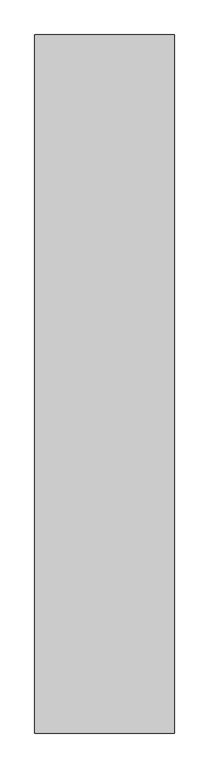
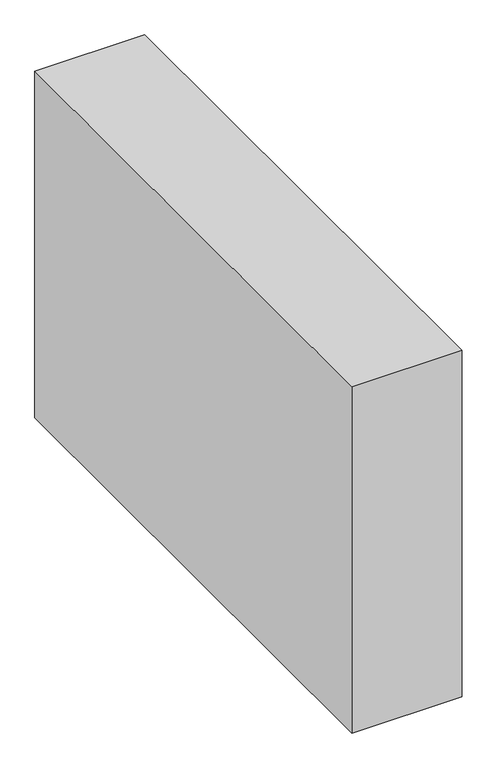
"""IFC4 building model written with IfcOpenShell, lengths in millimetres: proxy geometry, BIMHealth-Nurses_Station_Standing_Zone_Clearance-LOD2A-v1 : BIMHealth-Nurses_Station_Standing_Zone_Clearance-LOD2A-v1."""

from ifc_helpers import new_model, si_unit, origin, origin_with_axes, place, context, project, spatial, polyline, outline, extrude, source, transform, mapped, element, save


def generic_models_7e918288(model_context):
    return source(origin(), model_context, "Body", "SweptSolid", [
        extrude(outline(polyline([(300.0, 1500.0), (300.0, -1500.0), (-300.0, -1500.0), (-300.0, 1500.0), (300.0, 1500.0)])), origin_with_axes(), (0.0, 0.0, 1.0), 2000.0),
    ])


if __name__ == "__main__":
    model = new_model("IFC4")
    model_context = context("Model", 3, world=origin())
    ifc_project = project(units=[si_unit("LENGTHUNIT", "METRE", prefix="MILLI")], contexts=[model_context])
    site = spatial("IfcSite", under=ifc_project)
    building = spatial("IfcBuilding", under=site)
    placement = place(None, origin())
    generic_models_shape = generic_models_7e918288(model_context)
    element("IfcBuildingElementProxy", 1, Name="BIMHealth-Nurses_Station_Standing_Zone_Clearance-LOD2A-v1 : BIMHealth-Nurses_Station_Standing_Zone_Clearance-LOD2A-v1", ObjectType="BIMHealth-Nurses_Station_Standing_Zone_Clearance-LOD2A-v1 : BIMHealth-Nurses_Station_Standing_Zone_Clearance-LOD2A-v1", at=placement, inside=building, context=model_context, shape_type="MappedRepresentation", body=[
        mapped(generic_models_shape, transform((0.0, 0.0, 0.0), x_axis=(1.0, 0.0, 0.0), y_axis=(0.0, 1.0, 0.0), z_axis=(0.0, 0.0, 1.0))),
    ])
    save(model, "model.ifc")
